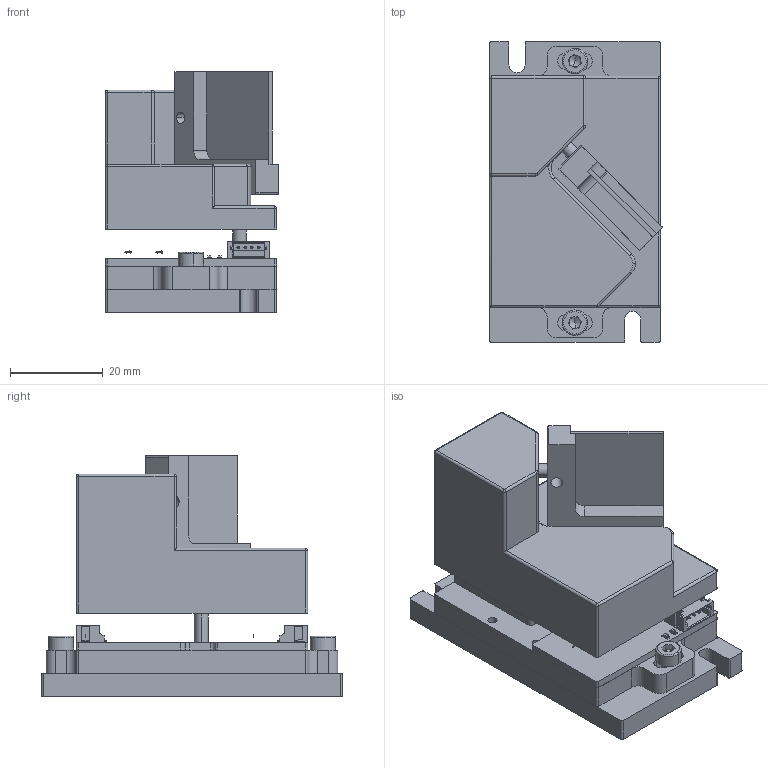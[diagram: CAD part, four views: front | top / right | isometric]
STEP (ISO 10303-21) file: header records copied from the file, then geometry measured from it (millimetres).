
FILE_DESCRIPTION (( 'STEP AP214' ), '1' );
FILE_NAME ('DT3750-riser block.STEP', '2026-04-07T07:00:51', ( 'User' ), ( 'China' ), 'SwSTEP 2.0', 'SolidWorks 2020', '' );
FILE_SCHEMA (( 'AUTOMOTIVE_DESIGN' ));
Length unit declared in the file: millimetre
Products named in the file (1): DT3750-riser block
Bounding box: 37.49 x 65 x 52 mm (x, y, z)
Surface area: 25544.7 mm2 (no closed solid volume)
Topology: 0 solids, 87 shells, 1453 faces, 3665 edges, 2372 vertices
Faces by surface type: plane 799, bspline 254, cylinder 244, torus 109, cone 40, sphere 7
Entity records: 61654 total; most frequent: CARTESIAN_POINT 11187, ORIENTED_EDGE 7304, DIRECTION 6253, EDGE_CURVE 3654, LINE 2377, VECTOR 2377, VERTEX_POINT 2372, AXIS2_PLACEMENT_3D 1938
